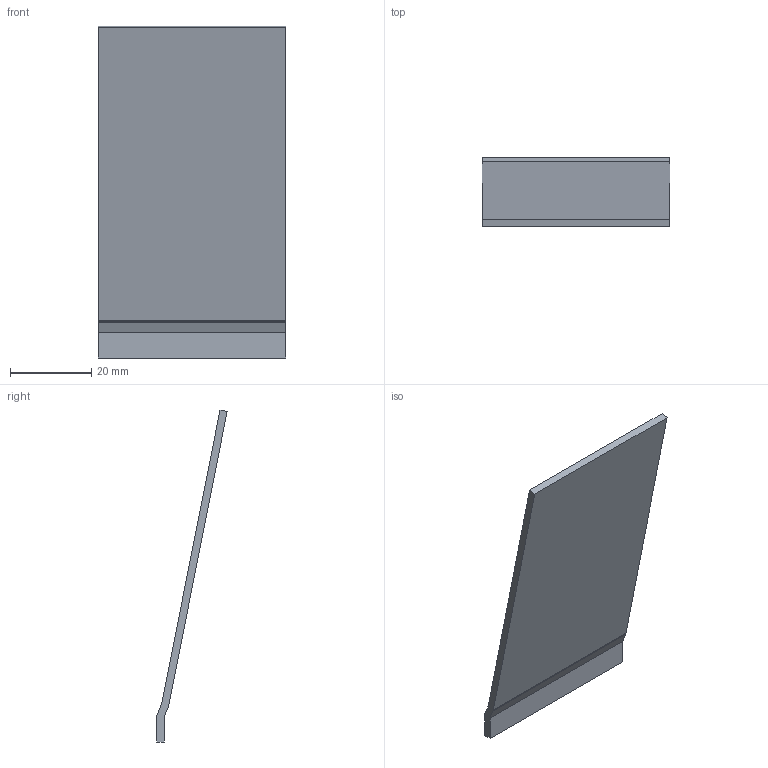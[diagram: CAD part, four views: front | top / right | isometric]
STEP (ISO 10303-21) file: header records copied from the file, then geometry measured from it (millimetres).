
FILE_DESCRIPTION(('Open CASCADE Model'),'2;1');
FILE_NAME('Open CASCADE Shape Model','2026-10-16T00:41:01',('Author'),( 'Open CASCADE'),'Open CASCADE STEP processor 7.9','Open CASCADE 7.9' ,'Unknown');
FILE_SCHEMA(('AUTOMOTIVE_DESIGN { 1 0 10303 214 1 1 1 1 }'));
Length unit declared in the file: millimetre
Products named in the file (1): Open CASCADE STEP translator 7.9 13
Bounding box: 46 x 17.27 x 81.5 mm (x, y, z)
Volume: 6868.8 mm3; surface area: 8096.3 mm2
Topology: 1 solids, 1 shells, 12 faces, 30 edges, 20 vertices
Faces by surface type: plane 12
Entity records: 754 total; most frequent: CARTESIAN_POINT 123, DIRECTION 116, LINE 90, VECTOR 90, ORIENTED_EDGE 60, PCURVE 60, DEFINITIONAL_REPRESENTATION 60, EDGE_CURVE 30
